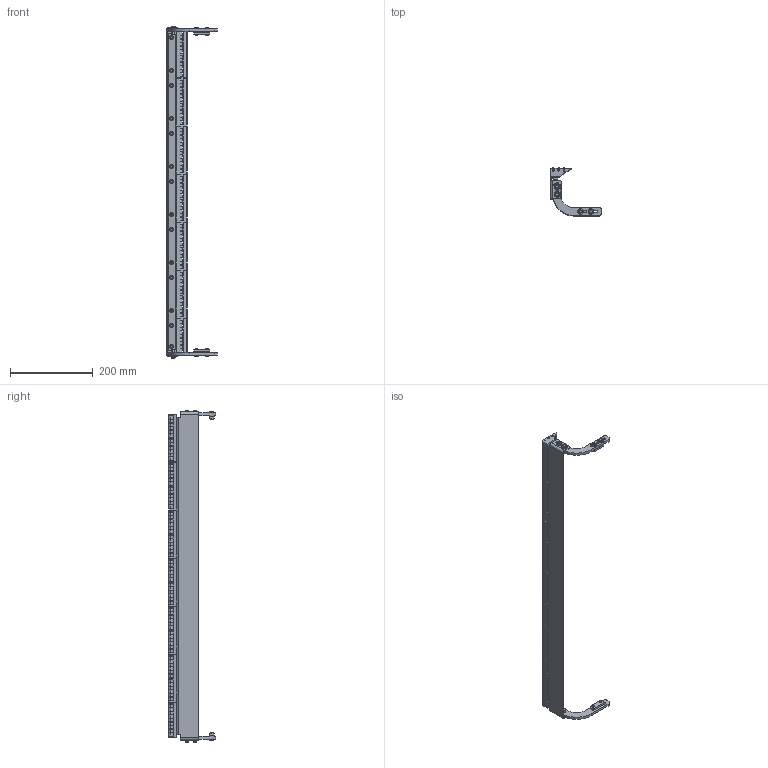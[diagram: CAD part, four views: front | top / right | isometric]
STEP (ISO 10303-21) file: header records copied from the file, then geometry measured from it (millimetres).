
FILE_DESCRIPTION((''),'2;1');
FILE_NAME('518355-30_ASM','2023-03-24T',('jenni.wallner'),(''),'PRO/ENGINEER BY PARAMETRIC TECHNOLOGY CORPORATION, 2012420','PRO/ENGINEER BY PARAMETRIC TECHNOLOGY CORPORATION, 2012420','');
FILE_SCHEMA(('CONFIG_CONTROL_DESIGN'));
Length unit declared in the file: inch
Products named in the file (75): 960616MSSF; 532387; 807-1830_13-1-SOLID1; 807-1830_25-1-SOLID1; 807-1830_26-1-SOLID1; 807-1830_36-1-SOLID1; 807-1830_24-1-SOLID1; 807-1830_9-1-SOLID1; 807-1830_28-1-SOLID1; 807-1830_22-1-SOLID1; 807-1830_12-1-SOLID1; 807-1830_11-1-SOLID1; 807-1830_7-1-SOLID1; 807-1830_19-1-SOLID1; 807-1830_4-1-SOLID1; 807-1830_15-1-SOLID1; 807-1830_1-1-SOLID1; 807-1830_35-1-SOLID1; 807-1830_10-1-SOLID1; 807-1830_29-1-SOLID1; 807-1830_21-1-SOLID1; 807-1830_2-1-SOLID1; 807-1830-1-SOLID1; 807-1830_18-1-SOLID1; 807-1830_32-1-SOLID1; 807-1830_31-1-SOLID1; 807-1830_14-1-SOLID1; 807-1830_33-1-SOLID1; 807-1830_20-1-SOLID1; 807-1830_5-1-SOLID1; 807-1830_34-1-SOLID1; 807-1830_8-1-SOLID1; 807-1830_23-1-SOLID1; 807-1830_27-1-SOLID1; 807-1830_17-1-SOLID1; 807-1830_16-1-SOLID1; 807-1830_6-1-SOLID1; 807-1830_3-1-SOLID1; 807-1830_30-1-SOLID1; 807-1830_ASM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
Assembly tree (88 placements, depth 4):
  518355-30_ASM
    ASM0001_ASM
      960616MSSF  x8
      532387  x2
      807-1830_ASM  x6
        807-1830_13-1-SOLID1
        807-1830_25-1-SOLID1
        807-1830_26-1-SOLID1
        807-1830_36-1-SOLID1
        807-1830_24-1-SOLID1
        807-1830_9-1-SOLID1
        807-1830_28-1-SOLID1
        807-1830_22-1-SOLID1
        807-1830_12-1-SOLID1
        807-1830_11-1-SOLID1
        807-1830_7-1-SOLID1
        807-1830_19-1-SOLID1
        807-1830_4-1-SOLID1
        807-1830_15-1-SOLID1
        807-1830_1-1-SOLID1
        807-1830_35-1-SOLID1
        807-1830_10-1-SOLID1
        807-1830_29-1-SOLID1
        807-1830_21-1-SOLID1
        807-1830_2-1-SOLID1
        807-1830-1-SOLID1
        807-1830_18-1-SOLID1
        807-1830_32-1-SOLID1
        807-1830_31-1-SOLID1
        807-1830_14-1-SOLID1
        807-1830_33-1-SOLID1
        807-1830_20-1-SOLID1
        807-1830_5-1-SOLID1
        807-1830_34-1-SOLID1
        807-1830_8-1-SOLID1
        807-1830_23-1-SOLID1
        807-1830_27-1-SOLID1
        807-1830_17-1-SOLID1
        807-1830_16-1-SOLID1
        807-1830_6-1-SOLID1
        807-1830_3-1-SOLID1
        807-1830_30-1-SOLID1
      520309  x2
      518353-WW_518353-30
      807-1829_ASM
        807-1829_20-1-SOLID1
        CUT-EXTRUDE1_1_
        807-1829_17-1-SOLID1
        807-1829_5-1-SOLID1
        CUT-EXTRUDE1_2_
        807-1829_6-1-SOLID1
        807-1829_10-1-SOLID1
        807-1829_7-1-SOLID1
        807-1829_3-1-SOLID1
        807-1829_12-1-SOLID1
        807-1829_19-1-SOLID1
        807-1829_1-1-SOLID1
        807-1829_8-1-SOLID1
        807-1829_2-1-SOLID1
        807-1829_9-1-SOLID1
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Bounding box: 122.82 x 114.68 x 800.52 mm (x, y, z)
Volume: 605946.9 mm3; surface area: 368202.5 mm2
Topology: 265 solids, 265 shells, 1751 faces, 3449 edges, 2279 vertices
Faces by surface type: plane 872, cylinder 819, cone 60
Entity records: 16861 total; most frequent: DIRECTION 3244, CARTESIAN_POINT 2703, ORIENTED_EDGE 2246, AXIS2_PLACEMENT_3D 1345, EDGE_CURVE 1123, VERTEX_POINT 743, EDGE_LOOP 624, CIRCLE 563
